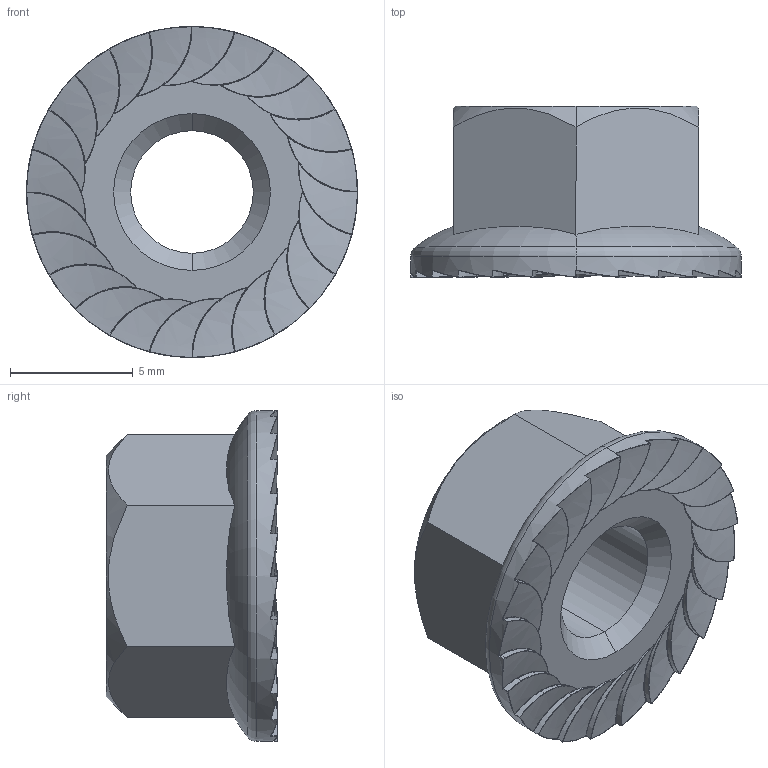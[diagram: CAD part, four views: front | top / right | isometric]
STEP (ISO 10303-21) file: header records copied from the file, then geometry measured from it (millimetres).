
FILE_DESCRIPTION (( 'STEP AP203' ), '1' );
FILE_NAME ('TANLD-304-M6.STEP', '2026-08-25T06:56:55', ( '' ), ( '' ), 'SwSTEP 2.0', 'SolidWorks 2020', '' );
FILE_SCHEMA (( 'CONFIG_CONTROL_DESIGN' ));
Length unit declared in the file: millimetre
Products named in the file (1): TANLD-304-M6
Bounding box: 13.5 x 6.99 x 13.5 mm (x, y, z)
Volume: 521.2 mm3; surface area: 573.5 mm2
Topology: 1 solids, 1 shells, 204 faces, 595 edges, 369 vertices
Faces by surface type: cylinder 89, bspline 72, sphere 25, plane 8, cone 6, torus 4
Entity records: 10792 total; most frequent: CARTESIAN_POINT 6397, ORIENTED_EDGE 1040, DIRECTION 755, EDGE_CURVE 520, AXIS2_PLACEMENT_3D 339, VERTEX_POINT 319, B_SPLINE_CURVE_WITH_KNOTS 236, CIRCLE 207
